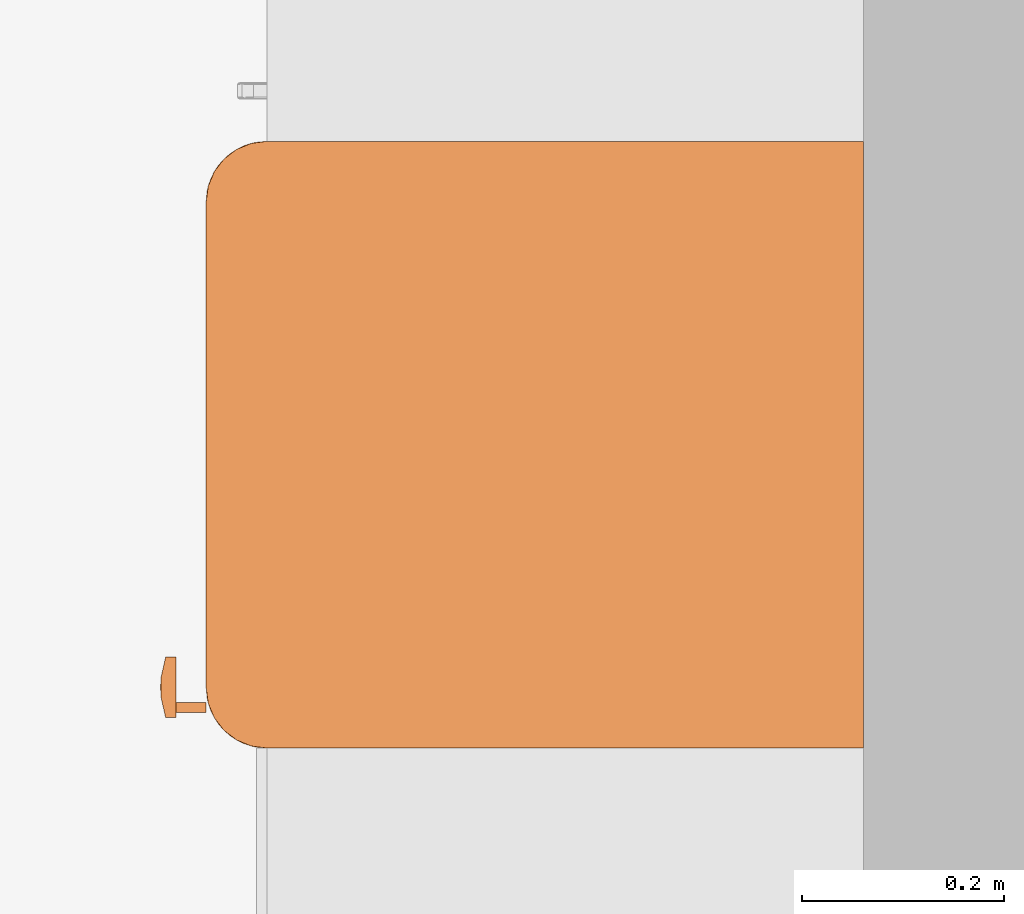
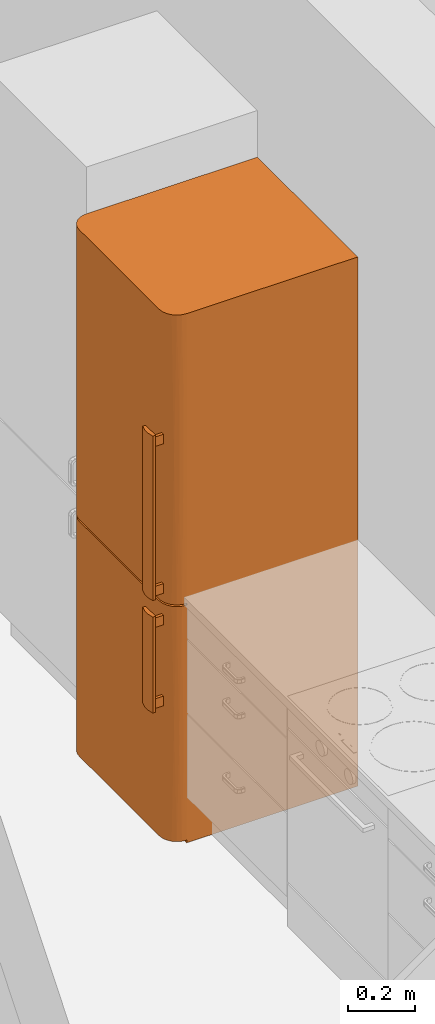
# One storey, part 63 of 65: 1 proxy.
"""IFC2X3 building model written with IfcOpenShell, lengths in millimetres."""

from ifc_helpers import new_model, entity, si_unit, converted_unit, direction, frame, origin, place, context, subcontext, project, spatial, faceted_brep, source, transform, mapped, material, type_object, type_shapes, element, save


model = new_model("IFC2X3")

# Units and contexts
model_context = context("Model", 3, precision=0.01, world=origin(), true_north=direction((0.0, 1.0)))
body_context = subcontext(model_context, "Body", "Model", "MODEL_VIEW")
ifc_project = project(units=[si_unit("LENGTHUNIT", "METRE", prefix="MILLI"), si_unit("AREAUNIT", "SQUARE_METRE"), si_unit("VOLUMEUNIT", "CUBIC_METRE"), converted_unit("PLANEANGLEUNIT", "DEGREE", entity("IfcPlaneAngleMeasure", 0.017453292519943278), si_unit("PLANEANGLEUNIT", "RADIAN"), dimensions=[0, 0, 0, 0, 0, 0, 0])], contexts=[model_context])

# Site, building, storey, space
site_placement = place(None, origin())
site = spatial("IfcSite", under=ifc_project, at=site_placement, Name="Default", CompositionType="ELEMENT")
building_placement = place(site_placement, origin())
building = spatial("IfcBuilding", under=site, at=building_placement, CompositionType="ELEMENT")
storey_placement = place(building_placement, origin())
storey = spatial("IfcBuildingStorey", under=building, at=storey_placement, Name="Et. 1", CompositionType="ELEMENT", Elevation=0.0)
space_placement = place(storey_placement, origin())
space = spatial("IfcSpace", under=storey, at=space_placement, Name="101", CompositionType="ELEMENT", InteriorOrExteriorSpace="INTERNAL")

# Proxy
ifc_material = material(Name="Kjøkken - Hvitevarer")
building_element_proxy_type = type_object("IfcBuildingElementProxyType", Name="Kombiskap:Kombiskap", PredefinedType="NOTDEFINED", material=ifc_material)
shared_shape = source(origin(), body_context, "Body", "Brep", [
    faceted_brep([(10.414939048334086, 101.81681120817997, 795.0), (0.41493904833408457, 101.81681120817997, 795.0), (0.41493904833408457, 101.81681120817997, 830.0), (10.414939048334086, 101.81681120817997, 830.0), (10.414939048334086, 101.81681120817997, 500.0), (0.41493904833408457, 101.81681120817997, 500.0), (0.41493904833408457, 101.81681120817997, 535.0), (10.414939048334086, 101.81681120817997, 535.0), (-24.75248180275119, 57.32519776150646, 840.0), (-4.417640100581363, 57.325197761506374, 840.0), (15.414939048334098, 61.81681120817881, 840.0), (15.414939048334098, 71.81681120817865, 840.0), (-44.585060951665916, 71.81681120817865, 840.0), (-44.58506095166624, 61.81681120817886, 840.0), (-44.585060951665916, 71.81681120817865, 490.0), (15.414939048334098, 71.81681120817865, 490.0), (15.414939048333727, 61.816811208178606, 490.0), (-4.417640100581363, 57.325197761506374, 490.0), (-24.75248180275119, 57.32519776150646, 490.0), (-44.585060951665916, 61.81681120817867, 490.0), (10.414939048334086, 71.81681120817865, 795.0), (10.414939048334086, 71.81681120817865, 830.0), (10.414939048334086, 71.81681120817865, 535.0), (0.41493904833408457, 71.81681120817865, 830.0), (10.414939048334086, 71.81681120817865, 500.0), (0.41493904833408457, 71.81681120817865, 500.0), (0.41493904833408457, 71.81681120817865, 795.0), (0.41493904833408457, 71.81681120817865, 535.0)], [[[0, 1, 2, 3]], [[4, 5, 6, 7]], [[8, 9, 10, 11, 12, 13]], [[14, 15, 16, 17, 18, 19]], [[11, 20, 21]], [[20, 11, 22]], [[11, 21, 23]], [[23, 12, 11]], [[15, 22, 11]], [[22, 15, 24]], [[24, 15, 25]], [[14, 25, 15]], [[12, 26, 14]], [[27, 25, 14]], [[27, 14, 26]], [[12, 23, 26]], [[20, 22, 26]], [[22, 27, 26]], [[13, 12, 14, 19]], [[19, 18, 8, 13]], [[18, 17, 9, 8]], [[17, 16, 10, 9]], [[11, 10, 16, 15]], [[26, 23, 2, 1]], [[25, 27, 6, 5]], [[20, 26, 1, 0]], [[21, 20, 0, 3]], [[22, 24, 4, 7]], [[23, 21, 3, 2]], [[24, 25, 5, 4]], [[27, 22, 7, 6]]]),
    faceted_brep([(10.414939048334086, 101.81681120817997, 1455.0), (0.41493904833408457, 101.81681120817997, 1455.0), (0.41493904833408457, 101.81681120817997, 1490.0), (10.414939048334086, 101.81681120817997, 1490.0), (10.414939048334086, 101.81681120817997, 910.0), (0.41493904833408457, 101.81681120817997, 910.0), (0.41493904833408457, 101.81681120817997, 945.0), (10.414939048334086, 101.81681120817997, 945.0), (-24.75248180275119, 57.32519776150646, 1500.0), (-4.417640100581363, 57.325197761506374, 1500.0), (15.414939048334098, 61.81681120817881, 1500.0), (15.414939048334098, 71.81681120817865, 1500.0), (-44.585060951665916, 71.81681120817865, 1500.0), (-44.58506095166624, 61.81681120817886, 1500.0), (-44.585060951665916, 71.81681120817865, 900.0), (15.414939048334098, 71.81681120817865, 900.0), (15.414939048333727, 61.816811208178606, 900.0), (-4.417640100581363, 57.325197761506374, 900.0), (-24.75248180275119, 57.32519776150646, 900.0), (-44.585060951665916, 61.81681120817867, 900.0), (10.414939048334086, 71.81681120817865, 1455.0), (10.414939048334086, 71.81681120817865, 1490.0), (10.414939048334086, 71.81681120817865, 945.0), (0.41493904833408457, 71.81681120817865, 1490.0), (10.414939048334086, 71.81681120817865, 910.0), (0.41493904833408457, 71.81681120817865, 910.0), (0.41493904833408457, 71.81681120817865, 1455.0), (0.41493904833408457, 71.81681120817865, 945.0), (-44.58506095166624, 61.81681120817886, 1166.0142965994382), (-14.585060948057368, 56.75849161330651, 1200.0000000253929), (15.414939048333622, 61.81681120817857, 1233.985703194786)], [[[0, 1, 2, 3]], [[4, 5, 6, 7]], [[8, 9, 10, 11, 12, 13]], [[14, 15, 16, 17, 18, 19]], [[11, 20, 21]], [[20, 11, 22]], [[11, 21, 23]], [[23, 12, 11]], [[15, 22, 11]], [[22, 15, 24]], [[24, 15, 25]], [[14, 25, 15]], [[12, 26, 14]], [[27, 25, 14]], [[27, 14, 26]], [[12, 23, 26]], [[20, 22, 26]], [[22, 27, 26]], [[12, 14, 19, 28, 13]], [[28, 18, 29]], [[9, 8, 29]], [[19, 18, 28]], [[8, 13, 28]], [[10, 9, 30]], [[17, 16, 30]], [[28, 29, 8]], [[30, 29, 17]], [[18, 17, 29]], [[30, 9, 29]], [[11, 10, 30, 16, 15]], [[26, 23, 2, 1]], [[25, 27, 6, 5]], [[20, 26, 1, 0]], [[21, 20, 0, 3]], [[22, 24, 4, 7]], [[23, 21, 3, 2]], [[24, 25, 5, 4]], [[27, 22, 7, 6]]]),
    faceted_brep([(45.41493904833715, 751.8168112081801, 1930.0), (-554.5850609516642, 751.8168112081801, 1930.0), (-554.5850609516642, 161.81681120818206, 1930.0), (45.41493904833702, 161.81681120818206, 1930.0), (45.41493904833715, 751.8168112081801, 0.0), (45.41493904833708, 161.81681120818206, 0.0), (-554.5850609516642, 161.81681120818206, 0.0), (-554.5850609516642, 751.8168112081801, 0.0)], [[[0, 1, 2, 3]], [[4, 5, 6, 7]], [[1, 0, 4, 7]], [[2, 1, 7, 6]], [[3, 2, 6, 5]], [[0, 3, 5, 4]]]),
    faceted_brep([(-14.585060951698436, 101.81681120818, 873.0), (-14.58506095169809, 101.81681120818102, 1401.5000000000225), (-14.585060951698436, 101.81681120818, 1930.0), (-494.5850609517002, 101.81681120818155, 1930.0), (-494.5850609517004, 101.8168112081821, 1413.932630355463), (-494.5850609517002, 101.81681120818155, 873.0), (45.414939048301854, 161.8168112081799, 1930.0), (45.414939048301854, 161.81681120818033, 1413.9325289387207), (45.41493904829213, 161.8168112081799, 873.0), (-554.5850609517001, 161.81681120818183, 873.0), (-554.5850609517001, 161.816811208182, 1401.498940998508), (-554.5850609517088, 161.81681120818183, 1930.0), (43.37048862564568, 146.28766850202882, 873.0), (37.37646327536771, 131.8168112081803, 873.0), (27.841345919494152, 119.39040433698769, 873.0), (15.414939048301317, 109.85528698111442, 873.0), (0.9440817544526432, 103.86126163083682, 873.0), (-510.11420365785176, 103.86126163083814, 873.0), (-524.5850609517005, 109.855286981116, 873.0), (-537.0114678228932, 119.39040433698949, 873.0), (-546.5465851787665, 131.81681120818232, 873.0), (-552.5406105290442, 146.28766850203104, 873.0), (-552.5406105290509, 146.2876685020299, 1930.0), (-546.5465851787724, 131.81681120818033, 1930.0), (-537.0114678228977, 119.39040433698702, 1930.0), (-524.5850609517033, 109.85528698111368, 1930.0), (-510.11420365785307, 103.86126163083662, 1930.0), (0.9440817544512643, 103.86126163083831, 1930.0), (15.414939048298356, 109.85528698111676, 1930.0), (27.841345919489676, 119.39040433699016, 1930.0), (37.37646327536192, 131.81681120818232, 1930.0), (43.37048862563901, 146.28766850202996, 1930.0), (-517.5460669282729, 106.38403927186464, 1627.6261314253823), (-505.84676358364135, 102.88317010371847, 1288.3582073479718), (-517.5460668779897, 106.38403925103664, 1260.432413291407), (-505.11668121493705, 102.74833421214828, 1613.4477427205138), (-531.1107466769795, 114.21561077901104, 1401.4999997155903), (-550.0178329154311, 138.85580529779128, 1401.5000002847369), (-542.1862613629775, 125.29112545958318, 1260.432412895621), (-542.1862613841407, 125.29112548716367, 1627.6261311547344), (-553.4321777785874, 150.11139190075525, 1578.5237625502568), (-553.4321777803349, 150.11139190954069, 1219.3716082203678), (40.84771099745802, 138.85580526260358, 1627.626130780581), (44.348580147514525, 150.55510854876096, 1288.3582089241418), (40.847710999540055, 138.85580526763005, 1260.4324124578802), (44.4834160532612, 151.28519099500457, 1613.4477430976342), (33.01613946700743, 125.29112546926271, 1401.4999999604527), (8.375944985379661, 106.38403925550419, 1401.500000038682), (21.94062478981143, 114.2156107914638, 1260.4324124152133), (21.94062478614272, 114.2156107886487, 1627.626130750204), (-2.8796416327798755, 102.96969438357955, 1578.5237623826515), (-2.8796416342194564, 102.9696943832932, 1219.3716082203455)], [[[0, 1, 2, 3, 4, 5]], [[6, 7, 8, 9, 10, 11]], [[8, 12, 13, 14, 15, 16, 0, 5, 17, 18, 19, 20, 21, 9]], [[11, 22, 23, 24, 25, 26, 3, 2, 27, 28, 29, 30, 31, 6]], [[26, 25, 32]], [[33, 32, 34]], [[33, 35, 32]], [[36, 18, 34]], [[34, 32, 36]], [[26, 35, 3]], [[18, 17, 34]], [[19, 18, 36]], [[5, 4, 33]], [[24, 36, 25]], [[37, 38, 39]], [[3, 35, 4]], [[37, 23, 22]], [[37, 20, 38]], [[39, 36, 24]], [[40, 11, 10, 9, 41]], [[19, 36, 38]], [[23, 39, 24]], [[20, 37, 21]], [[20, 19, 38]], [[37, 41, 21]], [[41, 9, 21]], [[32, 35, 26]], [[36, 32, 25]], [[4, 35, 33]], [[34, 17, 33]], [[5, 33, 17]], [[37, 39, 23]], [[36, 39, 38]], [[40, 41, 37]], [[37, 22, 40]], [[11, 40, 22]], [[31, 30, 42]], [[43, 42, 44]], [[43, 45, 42]], [[46, 13, 44]], [[44, 42, 46]], [[31, 45, 6]], [[13, 12, 44]], [[14, 13, 46]], [[8, 7, 43]], [[29, 46, 30]], [[47, 48, 49]], [[6, 45, 7]], [[47, 28, 27]], [[47, 15, 48]], [[49, 46, 29]], [[50, 2, 1, 0, 51]], [[14, 46, 48]], [[28, 49, 29]], [[15, 47, 16]], [[15, 14, 48]], [[47, 51, 16]], [[51, 0, 16]], [[42, 45, 31]], [[46, 42, 30]], [[7, 45, 43]], [[44, 12, 43]], [[8, 43, 12]], [[47, 49, 28]], [[46, 49, 48]], [[50, 51, 47]], [[47, 27, 50]], [[2, 50, 27]]]),
    faceted_brep([(-554.5850609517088, 161.81681120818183, 867.0), (45.414939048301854, 161.8168112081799, 867.0), (45.414939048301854, 161.81681120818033, 550.9325289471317), (45.414939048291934, 161.8168112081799, 10.0), (-554.5850609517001, 161.81681120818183, 10.0), (-554.5850609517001, 161.816811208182, 438.50000000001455), (-504.93221619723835, 102.71574202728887, 332.4675984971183), (-510.11420365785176, 103.86126163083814, 867.0), (-517.5460668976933, 106.38403925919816, 376.1797676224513), (-552.5406105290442, 146.287668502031, 867.0), (-553.4321777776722, 150.11139189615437, 325.53651124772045), (-550.0178329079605, 138.85580527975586, 438.500000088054), (-494.5850609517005, 101.8168112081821, 550.9330778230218), (-531.1107466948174, 114.21561079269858, 438.49999988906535), (-524.5850609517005, 109.85528698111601, 10.0), (-524.5850609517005, 109.85528698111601, 867.0), (-494.5850609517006, 101.8168112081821, 867.0), (-537.0114678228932, 119.3904043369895, 867.0), (-494.5850609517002, 101.8168112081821, 10.0), (-537.0114678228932, 119.3904043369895, 10.0), (-510.11420365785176, 103.86126163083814, 10.0), (-546.5465851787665, 131.81681120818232, 867.0), (-542.1862613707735, 125.29112546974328, 376.1797672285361), (-546.5465851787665, 131.81681120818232, 10.0), (-552.5406105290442, 146.287668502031, 10.0), (44.516008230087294, 151.46965596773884, 332.46759725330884), (43.37048862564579, 146.28766850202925, 867.0), (40.8477109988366, 138.8558052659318, 376.1797665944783), (0.9440817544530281, 103.86126163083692, 867.0), (-2.879641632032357, 102.96969438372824, 325.53651100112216), (8.375944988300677, 106.38403925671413, 438.5000000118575), (33.01613946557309, 125.29112546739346, 438.4999999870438), (37.376463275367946, 131.8168112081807, 10.0), (37.376463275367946, 131.8168112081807, 867.0), (27.841345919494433, 119.39040433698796, 867.0), (27.841345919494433, 119.39040433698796, 10.0), (43.37048862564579, 146.28766850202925, 10.0), (15.414939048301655, 109.85528698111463, 867.0), (21.94062478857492, 114.21561079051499, 376.1797665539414), (-14.585060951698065, 101.81681120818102, 10.0), (-14.585060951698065, 101.81681120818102, 438.50000000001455), (15.414939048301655, 109.85528698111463, 10.0), (-14.585060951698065, 101.81681120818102, 867.0), (0.9440817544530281, 103.86126163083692, 10.0)], [[[0, 1, 2, 3, 4, 5]], [[6, 7, 8]], [[9, 10, 11]], [[7, 6, 12]], [[8, 13, 14]], [[13, 8, 15]], [[7, 12, 16]], [[17, 13, 15]], [[18, 12, 6]], [[13, 19, 14]], [[14, 20, 8]], [[21, 11, 22]], [[4, 10, 5]], [[11, 21, 9]], [[11, 23, 22]], [[17, 22, 13]], [[5, 9, 0]], [[19, 13, 22]], [[21, 22, 17]], [[6, 8, 20]], [[23, 19, 22]], [[11, 10, 24]], [[23, 11, 24]], [[15, 8, 7]], [[5, 10, 9]], [[18, 6, 20]], [[10, 4, 24]], [[25, 26, 27]], [[28, 29, 30]], [[26, 25, 2]], [[27, 31, 32]], [[31, 27, 33]], [[26, 2, 1]], [[34, 31, 33]], [[3, 2, 25]], [[31, 35, 32]], [[32, 36, 27]], [[37, 30, 38]], [[39, 29, 40]], [[30, 37, 28]], [[30, 41, 38]], [[34, 38, 31]], [[40, 28, 42]], [[35, 31, 38]], [[37, 38, 34]], [[25, 27, 36]], [[41, 35, 38]], [[30, 29, 43]], [[41, 30, 43]], [[33, 27, 26]], [[40, 29, 28]], [[3, 25, 36]], [[29, 39, 43]], [[39, 40, 42, 16, 12, 18]], [[7, 16, 42, 28, 37, 34, 33, 26, 1, 0, 9, 21, 17, 15]], [[43, 39, 18, 20, 14, 19, 23, 24, 4, 3, 36, 32, 35, 41]]]),
])
type_shapes(building_element_proxy_type, [shared_shape])
proxy_placement = place(space_placement, frame((15280.19277554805, 14201.473658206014, 0.0), z_axis=(0.0, 0.0, 1.0), x_axis=(0.0, -1.0, 0.0)))
element("IfcBuildingElementProxy", 1, at=proxy_placement, inside=space, type_object=building_element_proxy_type, material=ifc_material, Name="Kombiskap:Kombiskap", context=body_context, shape_type="MappedRepresentation", body=[
    mapped(shared_shape, transform((0.0, 0.0, 0.0), scale=1.0)),
])

save(model, "model.ifc")
